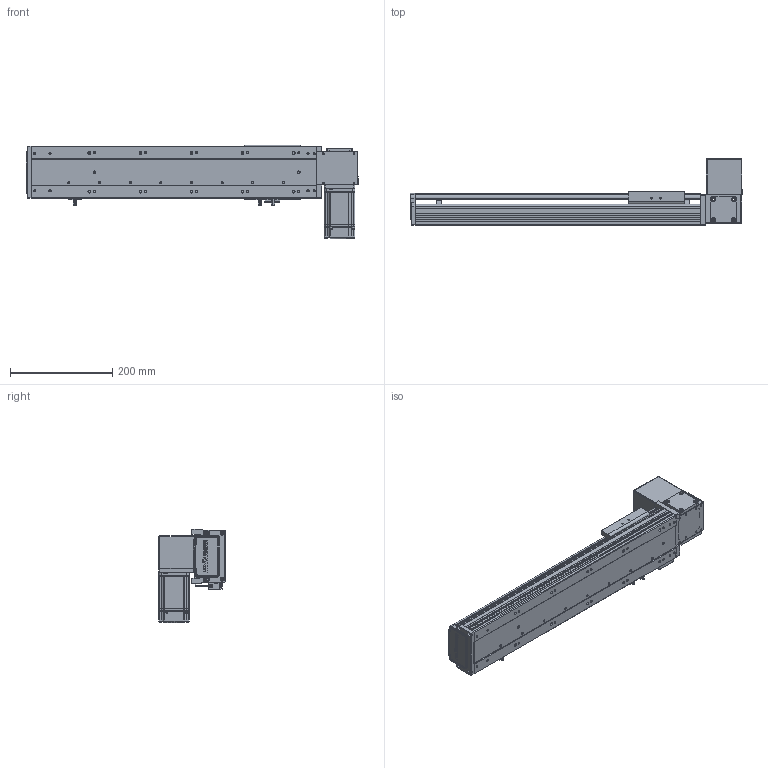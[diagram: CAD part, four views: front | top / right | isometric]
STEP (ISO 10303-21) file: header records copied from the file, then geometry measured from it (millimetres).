
FILE_DESCRIPTION (( 'STEP AP203' ), '1' );
FILE_NAME ('RY100-T-300-UL.SLDASM_350.step', '2024-04-25T08:39:10', ( '盈信电脑' ), ( '东莞市道滘镇水果街19号' ), 'SwSTEP 2.0', 'SolidWorks 2016', '' );
FILE_SCHEMA (( 'CONFIG_CONTROL_DESIGN' ));
Length unit declared in the file: millimetre
Products named in the file (15): 1; RY100-T肮祭謫翋盓傅釱; 滅袉蝶18-10; RY100綴裔啣; 覜茼ん672; RY100-T-300-RK倰第菁釱_350; RY80-T肮祭謫奻殏俋欶; RY100-T左右折电机安装板; RY100-T翋肮祭謫裔啣; RY100-T-300-UL.SLDASM_350; RY100-T肮祭謫臏賑輸; RY100-T翋肮祭謫裔啣2; RY100俋离覜茼え; RY100-T粣創揤踡裔; RY100-T-300-RK倰第奻裔_350
Assembly tree (17 placements, depth 2):
  RY100-T-300-UL.SLDASM_350
    RY100-T-300-RK倰第菁釱_350
    RY100-T-300-RK倰第奻裔_350
    RY100-T肮祭謫臏賑輸
    RY100綴裔啣
    覜茼ん672  x3
    RY100俋离覜茼え
    RY100-T肮祭謫翋盓傅釱
    滅袉蝶18-10  x2
    RY100-T翋肮祭謫裔啣2
    RY100-T翋肮祭謫裔啣
    1
    RY100-T左右折电机安装板
    RY80-T肮祭謫奻殏俋欶
    RY100-T粣創揤踡裔
Bounding box: 650 x 130.5 x 182.5 mm (x, y, z)
Volume: 1589456.1 mm3; surface area: 619497 mm2
Topology: 17 solids, 17 shells, 2135 faces, 5907 edges, 3833 vertices
Faces by surface type: plane 1195, cylinder 735, cone 127, bspline 78
Entity records: 68083 total; most frequent: CARTESIAN_POINT 16247, ORIENTED_EDGE 10646, DIRECTION 10141, EDGE_CURVE 5323, LINE 3513, VECTOR 3513, VERTEX_POINT 3501, AXIS2_PLACEMENT_3D 3314
